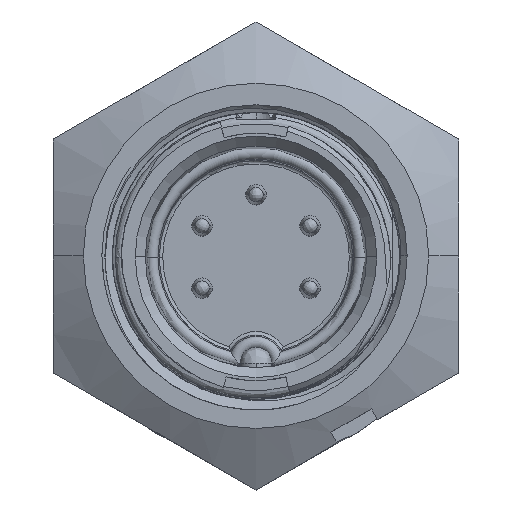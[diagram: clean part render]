
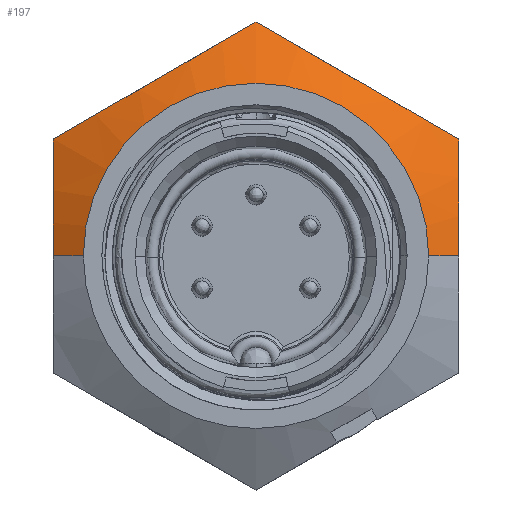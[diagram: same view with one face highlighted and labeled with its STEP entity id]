
A CAD part, top view. The second image highlights one B-rep face of the part: STEP entity #197.
In plain terms, the highlighted conical face has half-angle 60 degrees and reference radius 11.934 mm.
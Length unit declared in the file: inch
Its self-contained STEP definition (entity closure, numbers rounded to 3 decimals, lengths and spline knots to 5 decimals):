
#64 = VERTEX_POINT ( 'NONE', #28439 ) ;
#197 = ADVANCED_FACE ( 'NONE', ( #15975 ), #17062, .T. ) ;
#1652 = VERTEX_POINT ( 'NONE', #23540 ) ;
#1949 = B_SPLINE_CURVE_WITH_KNOTS ( 'NONE', 3,
 ( #17710, #18037, #17596, #17555, #17524, #17513, #17479, #17444 ),
 .UNSPECIFIED., .F., .F.,
 ( 4, 2, 2, 4 ),
 ( 0.00603, 0.00753, 0.00903, 0.01203 ),
 .UNSPECIFIED. ) ;
#2768 = CARTESIAN_POINT ( 'NONE',  ( -0.34612, 0., 1.641 ) ) ;
#3998 = CARTESIAN_POINT ( 'NONE',  ( 0.40625, 0., 1.60628 ) ) ;
#7227 = VERTEX_POINT ( 'NONE', #27739 ) ;
#7507 = CARTESIAN_POINT ( 'NONE',  ( -0.40625, 0.23455, 1.57 ) ) ;
#7533 = CARTESIAN_POINT ( 'NONE',  ( 0.40625, 0.23455, 1.57 ) ) ;
#7541 = CARTESIAN_POINT ( 'NONE',  ( -0.37304, 0.25372, 1.58107 ) ) ;
#7577 = CARTESIAN_POINT ( 'NONE',  ( -0.33956, 0.27305, 1.5902 ) ) ;
#7610 = CARTESIAN_POINT ( 'NONE',  ( -0.28872, 0.3024, 1.59969 ) ) ;
#7617 = CARTESIAN_POINT ( 'NONE',  ( -0.27168, 0.31224, 1.60214 ) ) ;
#7652 = CARTESIAN_POINT ( 'NONE',  ( -0.23736, 0.33206, 1.60545 ) ) ;
#7694 = CARTESIAN_POINT ( 'NONE',  ( -0.22001, 0.34208, 1.6063 ) ) ;
#7726 = CARTESIAN_POINT ( 'NONE',  ( -0.1682, 0.37199, 1.60626 ) ) ;
#7762 = CARTESIAN_POINT ( 'NONE',  ( -0.13409, 0.39168, 1.60279 ) ) ;
#7799 = CARTESIAN_POINT ( 'NONE',  ( -0.06657, 0.43066, 1.59017 ) ) ;
#7836 = CARTESIAN_POINT ( 'NONE',  ( -0.03317, 0.44995, 1.58106 ) ) ;
#7864 = CARTESIAN_POINT ( 'NONE',  ( 0., 0.4691, 1.57 ) ) ;
#8674 = B_SPLINE_CURVE_WITH_KNOTS ( 'NONE', 3,
 ( #7864, #7836, #7799, #7762, #7726, #7694, #7652, #7617, #7610, #7577, #7541, #7507 ),
 .UNSPECIFIED., .F., .F.,
 ( 4, 2, 2, 2, 2, 4 ),
 ( 0., 0.00301, 0.00602, 0.00752, 0.00903, 0.01203 ),
 .UNSPECIFIED. ) ;
#9032 = VERTEX_POINT ( 'NONE', #2768 ) ;
#9418 = ORIENTED_EDGE ( 'NONE', *, *, #26763, .T. ) ;
#9444 = CARTESIAN_POINT ( 'NONE',  ( -0.40625, 0., 1.60628 ) ) ;
#9472 = CARTESIAN_POINT ( 'NONE',  ( -0.40625, 0.03996, 1.60628 ) ) ;
#9513 = CARTESIAN_POINT ( 'NONE',  ( -0.40625, 0.07942, 1.60283 ) ) ;
#9521 = CARTESIAN_POINT ( 'NONE',  ( -0.40625, 0.15753, 1.5902 ) ) ;
#9685 = CARTESIAN_POINT ( 'NONE',  ( -0.40625, 0.23455, 1.57 ) ) ;
#10214 = CARTESIAN_POINT ( 'NONE',  ( -0.40625, 0.19618, 1.58108 ) ) ;
#10628 = ORIENTED_EDGE ( 'NONE', *, *, #29727, .T. ) ;
#10970 = CARTESIAN_POINT ( 'NONE',  ( 0., 0.4691, 1.57 ) ) ;
#11009 = CARTESIAN_POINT ( 'NONE',  ( 0.03321, 0.44992, 1.58107 ) ) ;
#11051 = CARTESIAN_POINT ( 'NONE',  ( 0.06669, 0.43059, 1.5902 ) ) ;
#11054 = CARTESIAN_POINT ( 'NONE',  ( 0.11753, 0.40124, 1.59969 ) ) ;
#11078 = CARTESIAN_POINT ( 'NONE',  ( 0.13457, 0.3914, 1.60214 ) ) ;
#11116 = CARTESIAN_POINT ( 'NONE',  ( 0.16889, 0.37159, 1.60545 ) ) ;
#11162 = CARTESIAN_POINT ( 'NONE',  ( 0.18624, 0.36157, 1.6063 ) ) ;
#11169 = CARTESIAN_POINT ( 'NONE',  ( 0.23805, 0.33166, 1.60626 ) ) ;
#11198 = CARTESIAN_POINT ( 'NONE',  ( 0.27216, 0.31196, 1.60279 ) ) ;
#11240 = CARTESIAN_POINT ( 'NONE',  ( 0.33968, 0.27299, 1.59017 ) ) ;
#11284 = CARTESIAN_POINT ( 'NONE',  ( 0.37308, 0.2537, 1.58106 ) ) ;
#11316 = CARTESIAN_POINT ( 'NONE',  ( 0.40625, 0.23455, 1.57 ) ) ;
#11399 = CIRCLE ( 'NONE', #11706, 0.34612 ) ;
#11706 = AXIS2_PLACEMENT_3D ( 'NONE', #26953, #26925, #26842 ) ;
#13917 = LINE ( 'NONE', #18579, #14460 ) ;
#14398 = VECTOR ( 'NONE', #15918, 39.37008 ) ;
#14460 = VECTOR ( 'NONE', #18535, 39.37008 ) ;
#15918 = DIRECTION ( 'NONE',  ( -0.866, 0., -0.5 ) ) ;
#15975 = FACE_OUTER_BOUND ( 'NONE', #29905, .T. ) ;
#16296 = CARTESIAN_POINT ( 'NONE',  ( -0.46983, 0., 1.56957 ) ) ;
#17062 = CONICAL_SURFACE ( 'NONE', #26331, 0.46983, 1.047 ) ;
#17444 = CARTESIAN_POINT ( 'NONE',  ( 0.40625, 0.23455, 1.57 ) ) ;
#17479 = CARTESIAN_POINT ( 'NONE',  ( 0.40625, 0.19628, 1.58105 ) ) ;
#17513 = CARTESIAN_POINT ( 'NONE',  ( 0.40625, 0.15768, 1.59017 ) ) ;
#17524 = CARTESIAN_POINT ( 'NONE',  ( 0.40625, 0.0991, 1.59965 ) ) ;
#17555 = CARTESIAN_POINT ( 'NONE',  ( 0.40625, 0.07945, 1.60211 ) ) ;
#17596 = CARTESIAN_POINT ( 'NONE',  ( 0.40625, 0.0399, 1.60543 ) ) ;
#17710 = CARTESIAN_POINT ( 'NONE',  ( 0.40625, 0., 1.60628 ) ) ;
#18037 = CARTESIAN_POINT ( 'NONE',  ( 0.40625, 0.01991, 1.60628 ) ) ;
#18535 = DIRECTION ( 'NONE',  ( 0.866, 0., -0.5 ) ) ;
#18579 = CARTESIAN_POINT ( 'NONE',  ( 0.46983, 0., 1.56957 ) ) ;
#18801 = VERTEX_POINT ( 'NONE', #3998 ) ;
#20220 = ORIENTED_EDGE ( 'NONE', *, *, #30519, .T. ) ;
#20978 = ORIENTED_EDGE ( 'NONE', *, *, #30421, .T. ) ;
#21404 = VERTEX_POINT ( 'NONE', #28899 ) ;
#21552 = ORIENTED_EDGE ( 'NONE', *, *, #32463, .F. ) ;
#23540 = CARTESIAN_POINT ( 'NONE',  ( -0.40625, 0., 1.60628 ) ) ;
#23791 = B_SPLINE_CURVE_WITH_KNOTS ( 'NONE', 3,
 ( #11316, #11284, #11240, #11198, #11169, #11162, #11116, #11078, #11054, #11051, #11009, #10970 ),
 .UNSPECIFIED., .F., .F.,
 ( 4, 2, 2, 2, 2, 4 ),
 ( 0., 0.00301, 0.00602, 0.00752, 0.00903, 0.01203 ),
 .UNSPECIFIED. ) ;
#24171 = VERTEX_POINT ( 'NONE', #7533 ) ;
#25534 = DIRECTION ( 'NONE',  ( 0., 0., -1. ) ) ;
#26331 = AXIS2_PLACEMENT_3D ( 'NONE', #30595, #25534, #30700 ) ;
#26763 = EDGE_CURVE ( 'NONE', #21404, #18801, #13917, .T. ) ;
#26842 = DIRECTION ( 'NONE',  ( -1., 0., 0. ) ) ;
#26852 = ORIENTED_EDGE ( 'NONE', *, *, #29095, .T. ) ;
#26925 = DIRECTION ( 'NONE',  ( 0., 0., -1. ) ) ;
#26953 = CARTESIAN_POINT ( 'NONE',  ( 0., 0., 1.641 ) ) ;
#27739 = CARTESIAN_POINT ( 'NONE',  ( 0., 0.4691, 1.57 ) ) ;
#27898 = EDGE_CURVE ( 'NONE', #9032, #21404, #11399, .T. ) ;
#28439 = CARTESIAN_POINT ( 'NONE',  ( -0.40625, 0.23455, 1.57 ) ) ;
#28899 = CARTESIAN_POINT ( 'NONE',  ( 0.34612, 0., 1.641 ) ) ;
#29079 = ORIENTED_EDGE ( 'NONE', *, *, #27898, .T. ) ;
#29095 = EDGE_CURVE ( 'NONE', #24171, #7227, #23791, .T. ) ;
#29114 = B_SPLINE_CURVE_WITH_KNOTS ( 'NONE', 3,
 ( #9685, #10214, #9521, #9513, #9472, #9444 ),
 .UNSPECIFIED., .F., .F.,
 ( 4, 2, 4 ),
 ( 0., 0.00301, 0.00603 ),
 .UNSPECIFIED. ) ;
#29727 = EDGE_CURVE ( 'NONE', #18801, #24171, #1949, .T. ) ;
#29905 = EDGE_LOOP ( 'NONE', ( #29079, #9418, #10628, #26852, #20220, #20978, #21552 ) ) ;
#30421 = EDGE_CURVE ( 'NONE', #64, #1652, #29114, .T. ) ;
#30519 = EDGE_CURVE ( 'NONE', #7227, #64, #8674, .T. ) ;
#30595 = CARTESIAN_POINT ( 'NONE',  ( 0., 0., 1.56957 ) ) ;
#30700 = DIRECTION ( 'NONE',  ( -1., 0., 0. ) ) ;
#32463 = EDGE_CURVE ( 'NONE', #9032, #1652, #32580, .T. ) ;
#32580 = LINE ( 'NONE', #16296, #14398 ) ;
